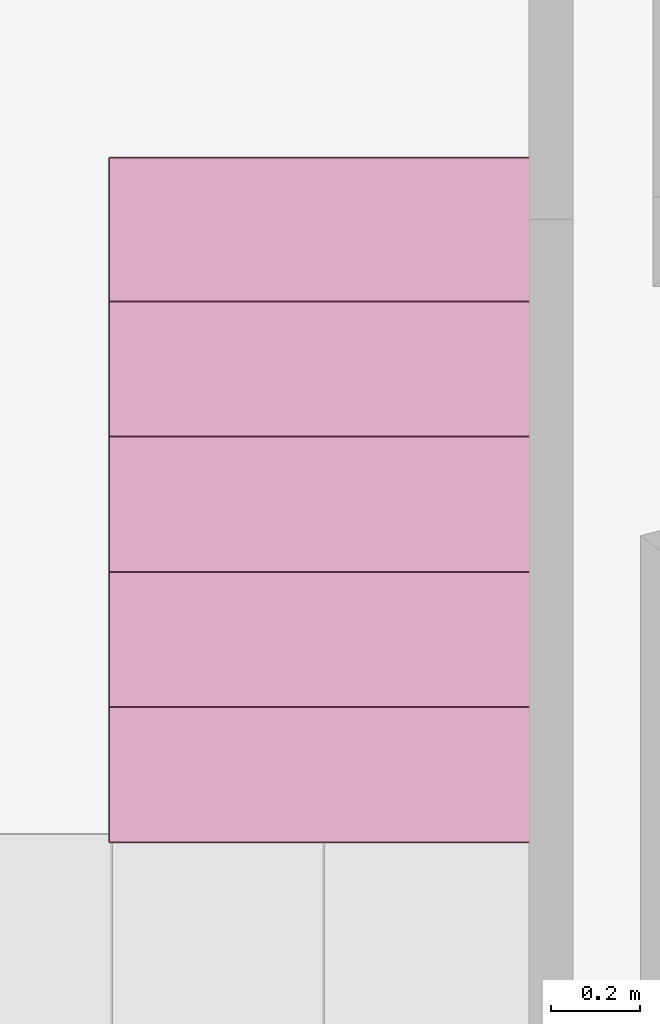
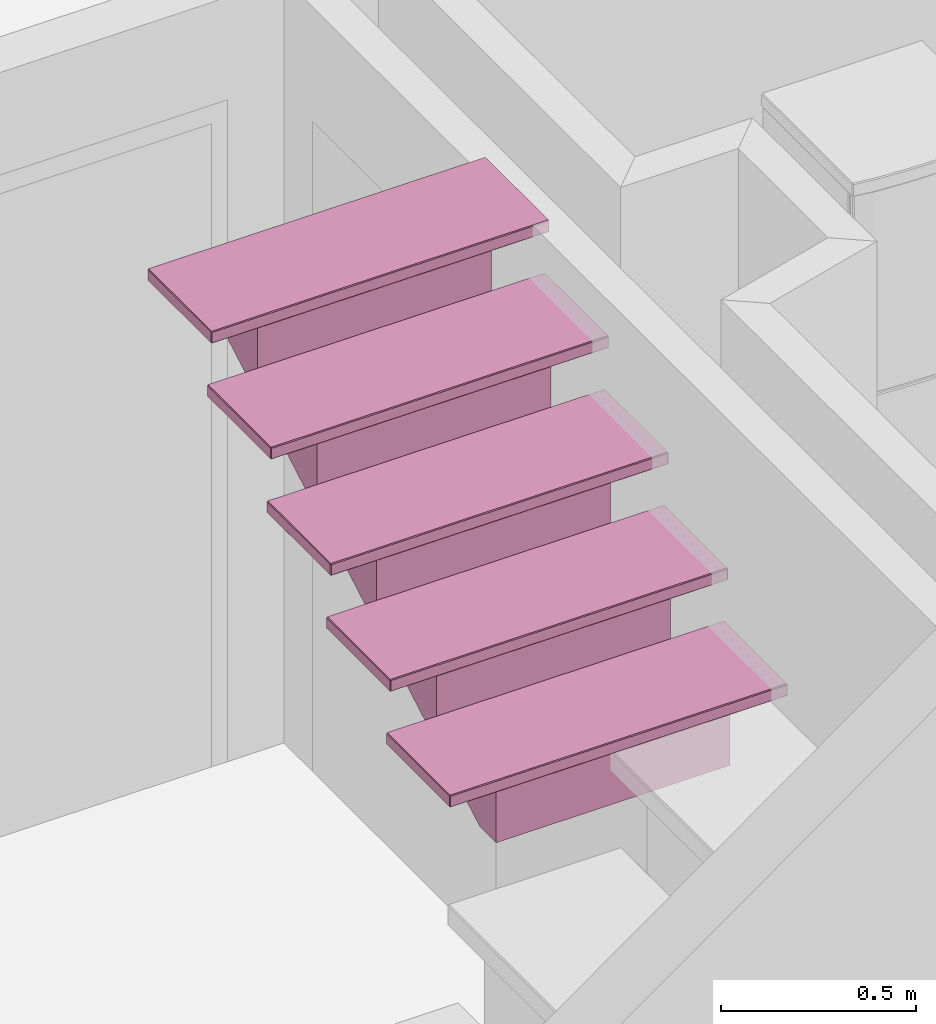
# One storey, part 4 of 9: 1 furnishing.
"""IFC2X3 building model written with IfcOpenShell, lengths in metres."""

from ifc_helpers import new_model, si_unit, frame, origin_with_axes, place, context, project, spatial, faceted_brep, type_object, element, save


model = new_model("IFC2X3")

# Units and contexts
model_context = context("Model", 3, precision=1e-05, world=origin_with_axes())
ifc_project = project(units=[si_unit("AREAUNIT", "SQUARE_METRE"), si_unit("LENGTHUNIT", "METRE")], contexts=[model_context])

# Site, building, storey, space
site_placement = place(None, origin_with_axes())
site = spatial("IfcSite", under=ifc_project, at=site_placement, Name="Site", CompositionType="ELEMENT")
building_placement = place(site_placement, origin_with_axes())
building = spatial("IfcBuilding", under=site, at=building_placement, Name="Building", CompositionType="ELEMENT")
storey_placement = place(building_placement, frame((0.0, 0.0, 0.0500004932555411), z_axis=(0.0, 0.0, 1.0), x_axis=(1.0, 0.0, 0.0)))
storey = spatial("IfcBuildingStorey", under=building, at=storey_placement, Name="Story 0", CompositionType="ELEMENT", Elevation=0.0499999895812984)
space_placement = place(storey_placement, frame((-2.12390536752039, -1.01893616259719, 0.0), z_axis=(0.0, 0.0, 1.0), x_axis=(1.0, 0.0, 0.0)))
space = spatial("IfcSpace", under=storey, at=space_placement, Name="005", CompositionType="ELEMENT", InteriorOrExteriorSpace="INTERNAL")

# Furnishing
furniture_type = type_object("IfcFurnitureType", Name="5df84158-10f1-4ef0-beb3-db7b0245d618")
furnishing_placement = place(space_placement, frame((-0.449350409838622, -1.71813582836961, 1.92690342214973), z_axis=(0.0, 0.0, 1.00000000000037), x_axis=(0.0, -1.00000000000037, 0.0)))
element("IfcFurnishingElement", 1, at=furnishing_placement, inside=space, type_object=furniture_type, Name="STAIRS", ObjectType="STAIRS", context=model_context, shape_type="Brep", body=[
    faceted_brep([(0.7738, 0.4976, -0.2504), (0.7738, -0.4976, -0.2504), (0.7738, 0.4976, -0.283), (0.7738, -0.4976, -0.283), (0.7738, 0.4976, -0.283), (0.7738, -0.4976, -0.2504), (0.7716, -0.4994, -0.2504), (0.4491, -0.4994, -0.2504), (0.7716, -0.4994, -0.283), (0.4491, -0.4994, -0.283), (0.7716, -0.4994, -0.283), (0.4491, -0.4994, -0.2504), (0.4469, -0.4976, -0.2504), (0.4469, 0.4976, -0.2504), (0.4469, -0.4976, -0.283), (0.4469, 0.4976, -0.283), (0.4469, -0.4976, -0.283), (0.4469, 0.4976, -0.2504), (0.4491, 0.4994, -0.2504), (0.7716, 0.4994, -0.2504), (0.4491, 0.4994, -0.283), (0.7716, 0.4994, -0.283), (0.4491, 0.4994, -0.283), (0.7716, 0.4994, -0.2504), (0.7716, -0.4976, -0.2855), (0.4491, -0.4976, -0.2855), (0.7716, 0.4976, -0.2855), (0.4491, 0.4976, -0.2855), (0.7716, 0.4976, -0.2855), (0.4491, -0.4976, -0.2855), (0.7716, -0.4976, -0.2479), (0.7716, 0.4976, -0.2479), (0.4491, -0.4976, -0.2479), (0.4491, 0.4976, -0.2479), (0.4491, -0.4976, -0.2479), (0.7716, 0.4976, -0.2479), (0.7716, 0.4994, -0.283), (0.7738, 0.4976, -0.283), (0.7716, 0.4976, -0.2855), (0.7716, -0.4994, -0.283), (0.7716, -0.4976, -0.2855), (0.7738, -0.4976, -0.283), (0.4469, -0.4976, -0.283), (0.4491, -0.4976, -0.2855), (0.4491, -0.4994, -0.283), (0.4469, 0.4976, -0.283), (0.4491, 0.4994, -0.283), (0.4491, 0.4976, -0.2855), (0.7716, 0.4976, -0.2479), (0.7738, 0.4976, -0.2504), (0.7716, 0.4994, -0.2504), (0.7716, -0.4976, -0.2479), (0.7716, -0.4994, -0.2504), (0.7738, -0.4976, -0.2504), (0.4491, -0.4976, -0.2479), (0.4469, -0.4976, -0.2504), (0.4491, -0.4994, -0.2504), (0.4491, 0.4976, -0.2479), (0.4491, 0.4994, -0.2504), (0.4469, 0.4976, -0.2504), (0.7716, 0.4976, -0.2855), (0.7738, 0.4976, -0.283), (0.7716, -0.4976, -0.2855), (0.7738, -0.4976, -0.283), (0.7716, -0.4976, -0.2855), (0.7738, 0.4976, -0.283), (0.7716, -0.4994, -0.283), (0.7738, -0.4976, -0.283), (0.7716, -0.4994, -0.2504), (0.7738, -0.4976, -0.2504), (0.7716, -0.4994, -0.2504), (0.7738, -0.4976, -0.283), (0.7716, -0.4976, -0.2479), (0.7738, -0.4976, -0.2504), (0.7716, 0.4976, -0.2479), (0.7738, 0.4976, -0.2504), (0.7716, 0.4976, -0.2479), (0.7738, -0.4976, -0.2504), (0.7716, 0.4994, -0.2504), (0.7738, 0.4976, -0.2504), (0.7716, 0.4994, -0.283), (0.7738, 0.4976, -0.283), (0.7716, 0.4994, -0.283), (0.7738, 0.4976, -0.2504), (0.7716, -0.4976, -0.2855), (0.7716, -0.4994, -0.283), (0.4491, -0.4976, -0.2855), (0.4491, -0.4994, -0.283), (0.4491, -0.4976, -0.2855), (0.7716, -0.4994, -0.283), (0.4469, -0.4976, -0.283), (0.4491, -0.4994, -0.283), (0.4469, -0.4976, -0.2504), (0.4491, -0.4994, -0.2504), (0.4469, -0.4976, -0.2504), (0.4491, -0.4994, -0.283), (0.4491, -0.4976, -0.2479), (0.4491, -0.4994, -0.2504), (0.7716, -0.4976, -0.2479), (0.7716, -0.4994, -0.2504), (0.7716, -0.4976, -0.2479), (0.4491, -0.4994, -0.2504), (0.4491, -0.4976, -0.2855), (0.4469, -0.4976, -0.283), (0.4491, 0.4976, -0.2855), (0.4469, 0.4976, -0.283), (0.4491, 0.4976, -0.2855), (0.4469, -0.4976, -0.283), (0.4491, 0.4994, -0.283), (0.4469, 0.4976, -0.283), (0.4491, 0.4994, -0.2504), (0.4469, 0.4976, -0.2504), (0.4491, 0.4994, -0.2504), (0.4469, 0.4976, -0.283), (0.4491, 0.4976, -0.2479), (0.4469, 0.4976, -0.2504), (0.4491, -0.4976, -0.2479), (0.4469, -0.4976, -0.2504), (0.4491, -0.4976, -0.2479), (0.4469, 0.4976, -0.2504), (0.4491, 0.4976, -0.2855), (0.4491, 0.4994, -0.283), (0.7716, 0.4976, -0.2855), (0.7716, 0.4994, -0.283), (0.7716, 0.4976, -0.2855), (0.4491, 0.4994, -0.283), (0.7716, 0.4976, -0.2479), (0.7716, 0.4994, -0.2504), (0.4491, 0.4976, -0.2479), (0.4491, 0.4994, -0.2504), (0.4491, 0.4976, -0.2479), (0.7716, 0.4994, -0.2504), (0.4679, 0.4976, -0.0743), (0.4679, -0.4976, -0.0743), (0.4679, 0.4976, -0.1069), (0.4679, -0.4976, -0.1069), (0.4679, 0.4976, -0.1069), (0.4679, -0.4976, -0.0743), (0.4657, -0.4994, -0.0743), (0.1431, -0.4994, -0.0743), (0.4657, -0.4994, -0.1069), (0.1431, -0.4994, -0.1069), (0.4657, -0.4994, -0.1069), (0.1431, -0.4994, -0.0743), (0.1409, -0.4976, -0.0743), (0.1409, 0.4976, -0.0743), (0.1409, -0.4976, -0.1069), (0.1409, 0.4976, -0.1069), (0.1409, -0.4976, -0.1069), (0.1409, 0.4976, -0.0743), (0.1431, 0.4994, -0.0743), (0.4657, 0.4994, -0.0743), (0.1431, 0.4994, -0.1069), (0.4657, 0.4994, -0.1069), (0.1431, 0.4994, -0.1069), (0.4657, 0.4994, -0.0743), (0.4657, -0.4976, -0.1094), (0.1431, -0.4976, -0.1094), (0.4657, 0.4976, -0.1094), (0.1431, 0.4976, -0.1094), (0.4657, 0.4976, -0.1094), (0.1431, -0.4976, -0.1094), (0.4657, -0.4976, -0.0718), (0.4657, 0.4976, -0.0718), (0.1431, -0.4976, -0.0718), (0.1431, 0.4976, -0.0718), (0.1431, -0.4976, -0.0718), (0.4657, 0.4976, -0.0718), (0.4657, 0.4994, -0.1069), (0.4679, 0.4976, -0.1069), (0.4657, 0.4976, -0.1094), (0.4657, -0.4994, -0.1069), (0.4657, -0.4976, -0.1094), (0.4679, -0.4976, -0.1069), (0.1409, -0.4976, -0.1069), (0.1431, -0.4976, -0.1094), (0.1431, -0.4994, -0.1069), (0.1409, 0.4976, -0.1069), (0.1431, 0.4994, -0.1069), (0.1431, 0.4976, -0.1094), (0.4657, 0.4976, -0.0718), (0.4679, 0.4976, -0.0743), (0.4657, 0.4994, -0.0743), (0.4657, -0.4976, -0.0718), (0.4657, -0.4994, -0.0743), (0.4679, -0.4976, -0.0743), (0.1431, -0.4976, -0.0718), (0.1409, -0.4976, -0.0743), (0.1431, -0.4994, -0.0743), (0.1431, 0.4976, -0.0718), (0.1431, 0.4994, -0.0743), (0.1409, 0.4976, -0.0743), (0.4657, 0.4976, -0.1094), (0.4679, 0.4976, -0.1069), (0.4657, -0.4976, -0.1094), (0.4679, -0.4976, -0.1069), (0.4657, -0.4976, -0.1094), (0.4679, 0.4976, -0.1069), (0.4657, -0.4994, -0.1069), (0.4679, -0.4976, -0.1069), (0.4657, -0.4994, -0.0743), (0.4679, -0.4976, -0.0743), (0.4657, -0.4994, -0.0743), (0.4679, -0.4976, -0.1069), (0.4657, -0.4976, -0.0718), (0.4679, -0.4976, -0.0743), (0.4657, 0.4976, -0.0718), (0.4679, 0.4976, -0.0743), (0.4657, 0.4976, -0.0718), (0.4679, -0.4976, -0.0743), (0.4657, 0.4994, -0.0743), (0.4679, 0.4976, -0.0743), (0.4657, 0.4994, -0.1069), (0.4679, 0.4976, -0.1069), (0.4657, 0.4994, -0.1069), (0.4679, 0.4976, -0.0743), (0.4657, -0.4976, -0.1094), (0.4657, -0.4994, -0.1069), (0.1431, -0.4976, -0.1094), (0.1431, -0.4994, -0.1069), (0.1431, -0.4976, -0.1094), (0.4657, -0.4994, -0.1069), (0.1409, -0.4976, -0.1069), (0.1431, -0.4994, -0.1069), (0.1409, -0.4976, -0.0743), (0.1431, -0.4994, -0.0743), (0.1409, -0.4976, -0.0743), (0.1431, -0.4994, -0.1069), (0.1431, -0.4976, -0.0718), (0.1431, -0.4994, -0.0743), (0.4657, -0.4976, -0.0718), (0.4657, -0.4994, -0.0743), (0.4657, -0.4976, -0.0718), (0.1431, -0.4994, -0.0743), (0.1431, -0.4976, -0.1094), (0.1409, -0.4976, -0.1069), (0.1431, 0.4976, -0.1094), (0.1409, 0.4976, -0.1069), (0.1431, 0.4976, -0.1094), (0.1409, -0.4976, -0.1069), (0.1431, 0.4994, -0.1069), (0.1409, 0.4976, -0.1069), (0.1431, 0.4994, -0.0743), (0.1409, 0.4976, -0.0743), (0.1431, 0.4994, -0.0743), (0.1409, 0.4976, -0.1069), (0.1431, 0.4976, -0.0718), (0.1409, 0.4976, -0.0743), (0.1431, -0.4976, -0.0718), (0.1409, -0.4976, -0.0743), (0.1431, -0.4976, -0.0718), (0.1409, 0.4976, -0.0743), (0.1431, 0.4976, -0.1094), (0.1431, 0.4994, -0.1069), (0.4657, 0.4976, -0.1094), (0.4657, 0.4994, -0.1069), (0.4657, 0.4976, -0.1094), (0.1431, 0.4994, -0.1069), (0.4657, 0.4976, -0.0718), (0.4657, 0.4994, -0.0743), (0.1431, 0.4976, -0.0718), (0.1431, 0.4994, -0.0743), (0.1431, 0.4976, -0.0718), (0.4657, 0.4994, -0.0743), (0.1634, 0.4976, 0.103), (0.1634, -0.4976, 0.103), (0.1634, 0.4976, 0.0704), (0.1634, -0.4976, 0.0704), (0.1634, 0.4976, 0.0704), (0.1634, -0.4976, 0.103), (0.1612, -0.4994, 0.103), (-0.1614, -0.4994, 0.103), (0.1612, -0.4994, 0.0704), (-0.1614, -0.4994, 0.0704), (0.1612, -0.4994, 0.0704), (-0.1614, -0.4994, 0.103), (-0.1635, -0.4976, 0.103), (-0.1635, 0.4976, 0.103), (-0.1635, -0.4976, 0.0704), (-0.1635, 0.4976, 0.0704), (-0.1635, -0.4976, 0.0704), (-0.1635, 0.4976, 0.103), (-0.1614, 0.4994, 0.103), (0.1612, 0.4994, 0.103), (-0.1614, 0.4994, 0.0704), (0.1612, 0.4994, 0.0704), (-0.1614, 0.4994, 0.0704), (0.1612, 0.4994, 0.103), (0.1612, -0.4976, 0.0678), (-0.1614, -0.4976, 0.0678), (0.1612, 0.4976, 0.0678), (-0.1614, 0.4976, 0.0678), (0.1612, 0.4976, 0.0678), (-0.1614, -0.4976, 0.0678), (0.1612, -0.4976, 0.1055), (0.1612, 0.4976, 0.1055), (-0.1614, -0.4976, 0.1055), (-0.1614, 0.4976, 0.1055), (-0.1614, -0.4976, 0.1055), (0.1612, 0.4976, 0.1055), (0.1612, 0.4994, 0.0704), (0.1634, 0.4976, 0.0704), (0.1612, 0.4976, 0.0678), (0.1612, -0.4994, 0.0704), (0.1612, -0.4976, 0.0678), (0.1634, -0.4976, 0.0704), (-0.1635, -0.4976, 0.0704), (-0.1614, -0.4976, 0.0678), (-0.1614, -0.4994, 0.0704), (-0.1635, 0.4976, 0.0704), (-0.1614, 0.4994, 0.0704), (-0.1614, 0.4976, 0.0678), (0.1612, 0.4976, 0.1055), (0.1634, 0.4976, 0.103), (0.1612, 0.4994, 0.103), (0.1612, -0.4976, 0.1055), (0.1612, -0.4994, 0.103), (0.1634, -0.4976, 0.103), (-0.1614, -0.4976, 0.1055), (-0.1635, -0.4976, 0.103), (-0.1614, -0.4994, 0.103), (-0.1614, 0.4976, 0.1055), (-0.1614, 0.4994, 0.103), (-0.1635, 0.4976, 0.103), (0.1612, 0.4976, 0.0678), (0.1634, 0.4976, 0.0704), (0.1612, -0.4976, 0.0678), (0.1634, -0.4976, 0.0704), (0.1612, -0.4976, 0.0678), (0.1634, 0.4976, 0.0704), (0.1612, -0.4994, 0.0704), (0.1634, -0.4976, 0.0704), (0.1612, -0.4994, 0.103), (0.1634, -0.4976, 0.103), (0.1612, -0.4994, 0.103), (0.1634, -0.4976, 0.0704), (0.1612, -0.4976, 0.1055), (0.1634, -0.4976, 0.103), (0.1612, 0.4976, 0.1055), (0.1634, 0.4976, 0.103), (0.1612, 0.4976, 0.1055), (0.1634, -0.4976, 0.103), (0.1612, 0.4994, 0.103), (0.1634, 0.4976, 0.103), (0.1612, 0.4994, 0.0704), (0.1634, 0.4976, 0.0704), (0.1612, 0.4994, 0.0704), (0.1634, 0.4976, 0.103), (0.1612, -0.4976, 0.0678), (0.1612, -0.4994, 0.0704), (-0.1614, -0.4976, 0.0678), (-0.1614, -0.4994, 0.0704), (-0.1614, -0.4976, 0.0678), (0.1612, -0.4994, 0.0704), (-0.1635, -0.4976, 0.0704), (-0.1614, -0.4994, 0.0704), (-0.1635, -0.4976, 0.103), (-0.1614, -0.4994, 0.103), (-0.1635, -0.4976, 0.103), (-0.1614, -0.4994, 0.0704), (-0.1614, -0.4976, 0.1055), (-0.1614, -0.4994, 0.103), (0.1612, -0.4976, 0.1055), (0.1612, -0.4994, 0.103), (0.1612, -0.4976, 0.1055), (-0.1614, -0.4994, 0.103), (-0.1614, -0.4976, 0.0678), (-0.1635, -0.4976, 0.0704), (-0.1614, 0.4976, 0.0678), (-0.1635, 0.4976, 0.0704), (-0.1614, 0.4976, 0.0678), (-0.1635, -0.4976, 0.0704), (-0.1614, 0.4994, 0.0704), (-0.1635, 0.4976, 0.0704), (-0.1614, 0.4994, 0.103), (-0.1635, 0.4976, 0.103), (-0.1614, 0.4994, 0.103), (-0.1635, 0.4976, 0.0704), (-0.1614, 0.4976, 0.1055), (-0.1635, 0.4976, 0.103), (-0.1614, -0.4976, 0.1055), (-0.1635, -0.4976, 0.103), (-0.1614, -0.4976, 0.1055), (-0.1635, 0.4976, 0.103), (-0.1614, 0.4976, 0.0678), (-0.1614, 0.4994, 0.0704), (0.1612, 0.4976, 0.0678), (0.1612, 0.4994, 0.0704), (0.1612, 0.4976, 0.0678), (-0.1614, 0.4994, 0.0704), (0.1612, 0.4976, 0.1055), (0.1612, 0.4994, 0.103), (-0.1614, 0.4976, 0.1055), (-0.1614, 0.4994, 0.103), (-0.1614, 0.4976, 0.1055), (0.1612, 0.4994, 0.103), (-0.1423, 0.4976, 0.2808), (-0.1423, -0.4976, 0.2808), (-0.1423, 0.4976, 0.2482), (-0.1423, -0.4976, 0.2482), (-0.1423, 0.4976, 0.2482), (-0.1423, -0.4976, 0.2808), (-0.1445, -0.4994, 0.2808), (-0.4671, -0.4994, 0.2808), (-0.1445, -0.4994, 0.2482), (-0.4671, -0.4994, 0.2482), (-0.1445, -0.4994, 0.2482), (-0.4671, -0.4994, 0.2808), (-0.4692, -0.4976, 0.2808), (-0.4692, 0.4976, 0.2808), (-0.4692, -0.4976, 0.2482), (-0.4692, 0.4976, 0.2482), (-0.4692, -0.4976, 0.2482), (-0.4692, 0.4976, 0.2808), (-0.4671, 0.4994, 0.2808), (-0.1445, 0.4994, 0.2808), (-0.4671, 0.4994, 0.2482), (-0.1445, 0.4994, 0.2482), (-0.4671, 0.4994, 0.2482), (-0.1445, 0.4994, 0.2808), (-0.1445, -0.4976, 0.2457), (-0.4671, -0.4976, 0.2457), (-0.1445, 0.4976, 0.2457), (-0.4671, 0.4976, 0.2457), (-0.1445, 0.4976, 0.2457), (-0.4671, -0.4976, 0.2457), (-0.1445, -0.4976, 0.2833), (-0.1445, 0.4976, 0.2833), (-0.4671, -0.4976, 0.2833), (-0.4671, 0.4976, 0.2833), (-0.4671, -0.4976, 0.2833), (-0.1445, 0.4976, 0.2833), (-0.1445, 0.4994, 0.2482), (-0.1423, 0.4976, 0.2482), (-0.1445, 0.4976, 0.2457), (-0.1445, -0.4994, 0.2482), (-0.1445, -0.4976, 0.2457), (-0.1423, -0.4976, 0.2482), (-0.4692, -0.4976, 0.2482), (-0.4671, -0.4976, 0.2457), (-0.4671, -0.4994, 0.2482), (-0.4692, 0.4976, 0.2482), (-0.4671, 0.4994, 0.2482), (-0.4671, 0.4976, 0.2457), (-0.1445, 0.4976, 0.2833), (-0.1423, 0.4976, 0.2808), (-0.1445, 0.4994, 0.2808), (-0.1445, -0.4976, 0.2833), (-0.1445, -0.4994, 0.2808), (-0.1423, -0.4976, 0.2808), (-0.4671, -0.4976, 0.2833), (-0.4692, -0.4976, 0.2808), (-0.4671, -0.4994, 0.2808), (-0.4671, 0.4976, 0.2833), (-0.4671, 0.4994, 0.2808), (-0.4692, 0.4976, 0.2808), (-0.1445, 0.4976, 0.2457), (-0.1423, 0.4976, 0.2482), (-0.1445, -0.4976, 0.2457), (-0.1423, -0.4976, 0.2482), (-0.1445, -0.4976, 0.2457), (-0.1423, 0.4976, 0.2482), (-0.1445, -0.4994, 0.2482), (-0.1423, -0.4976, 0.2482), (-0.1445, -0.4994, 0.2808), (-0.1423, -0.4976, 0.2808), (-0.1445, -0.4994, 0.2808), (-0.1423, -0.4976, 0.2482), (-0.1445, -0.4976, 0.2833), (-0.1423, -0.4976, 0.2808), (-0.1445, 0.4976, 0.2833), (-0.1423, 0.4976, 0.2808), (-0.1445, 0.4976, 0.2833), (-0.1423, -0.4976, 0.2808), (-0.1445, 0.4994, 0.2808), (-0.1423, 0.4976, 0.2808), (-0.1445, 0.4994, 0.2482), (-0.1423, 0.4976, 0.2482), (-0.1445, 0.4994, 0.2482), (-0.1423, 0.4976, 0.2808), (-0.1445, -0.4976, 0.2457), (-0.1445, -0.4994, 0.2482), (-0.4671, -0.4976, 0.2457), (-0.4671, -0.4994, 0.2482), (-0.4671, -0.4976, 0.2457), (-0.1445, -0.4994, 0.2482), (-0.4692, -0.4976, 0.2482), (-0.4671, -0.4994, 0.2482), (-0.4692, -0.4976, 0.2808), (-0.4671, -0.4994, 0.2808), (-0.4692, -0.4976, 0.2808), (-0.4671, -0.4994, 0.2482), (-0.4671, -0.4976, 0.2833), (-0.4671, -0.4994, 0.2808), (-0.1445, -0.4976, 0.2833), (-0.1445, -0.4994, 0.2808), (-0.1445, -0.4976, 0.2833), (-0.4671, -0.4994, 0.2808), (-0.4671, -0.4976, 0.2457), (-0.4692, -0.4976, 0.2482), (-0.4671, 0.4976, 0.2457), (-0.4692, 0.4976, 0.2482), (-0.4671, 0.4976, 0.2457), (-0.4692, -0.4976, 0.2482), (-0.4671, 0.4994, 0.2482), (-0.4692, 0.4976, 0.2482), (-0.4671, 0.4994, 0.2808), (-0.4692, 0.4976, 0.2808), (-0.4671, 0.4994, 0.2808), (-0.4692, 0.4976, 0.2482), (-0.4671, 0.4976, 0.2833), (-0.4692, 0.4976, 0.2808), (-0.4671, -0.4976, 0.2833), (-0.4692, -0.4976, 0.2808), (-0.4671, -0.4976, 0.2833), (-0.4692, 0.4976, 0.2808), (-0.4671, 0.4976, 0.2457), (-0.4671, 0.4994, 0.2482), (-0.1445, 0.4976, 0.2457), (-0.1445, 0.4994, 0.2482), (-0.1445, 0.4976, 0.2457), (-0.4671, 0.4994, 0.2482), (-0.1445, 0.4976, 0.2833), (-0.1445, 0.4994, 0.2808), (-0.4671, 0.4976, 0.2833), (-0.4671, 0.4994, 0.2808), (-0.4671, 0.4976, 0.2833), (-0.1445, 0.4994, 0.2808), (-0.4469, 0.4976, 0.4581), (-0.4469, -0.4976, 0.4581), (-0.4469, 0.4976, 0.4255), (-0.4469, -0.4976, 0.4255), (-0.4469, 0.4976, 0.4255), (-0.4469, -0.4976, 0.4581), (-0.4491, -0.4994, 0.4581), (-0.7716, -0.4994, 0.4581), (-0.4491, -0.4994, 0.4255), (-0.7716, -0.4994, 0.4255), (-0.4491, -0.4994, 0.4255), (-0.7716, -0.4994, 0.4581), (-0.7738, -0.4976, 0.4581), (-0.7738, 0.4976, 0.4581), (-0.7738, -0.4976, 0.4255), (-0.7738, 0.4976, 0.4255), (-0.7738, -0.4976, 0.4255), (-0.7738, 0.4976, 0.4581), (-0.7716, 0.4994, 0.4581), (-0.4491, 0.4994, 0.4581), (-0.7716, 0.4994, 0.4255), (-0.4491, 0.4994, 0.4255), (-0.7716, 0.4994, 0.4255), (-0.4491, 0.4994, 0.4581), (-0.4491, -0.4976, 0.423), (-0.7716, -0.4976, 0.423), (-0.4491, 0.4976, 0.423), (-0.7716, 0.4976, 0.423), (-0.4491, 0.4976, 0.423), (-0.7716, -0.4976, 0.423), (-0.4491, -0.4976, 0.4606), (-0.4491, 0.4976, 0.4606), (-0.7716, -0.4976, 0.4606), (-0.7716, 0.4976, 0.4606), (-0.7716, -0.4976, 0.4606), (-0.4491, 0.4976, 0.4606), (-0.4491, 0.4994, 0.4255), (-0.4469, 0.4976, 0.4255), (-0.4491, 0.4976, 0.423), (-0.4491, -0.4994, 0.4255), (-0.4491, -0.4976, 0.423), (-0.4469, -0.4976, 0.4255), (-0.7738, -0.4976, 0.4255), (-0.7716, -0.4976, 0.423), (-0.7716, -0.4994, 0.4255), (-0.7738, 0.4976, 0.4255), (-0.7716, 0.4994, 0.4255), (-0.7716, 0.4976, 0.423), (-0.4491, 0.4976, 0.4606), (-0.4469, 0.4976, 0.4581), (-0.4491, 0.4994, 0.4581), (-0.4491, -0.4976, 0.4606), (-0.4491, -0.4994, 0.4581), (-0.4469, -0.4976, 0.4581), (-0.7716, -0.4976, 0.4606), (-0.7738, -0.4976, 0.4581), (-0.7716, -0.4994, 0.4581), (-0.7716, 0.4976, 0.4606), (-0.7716, 0.4994, 0.4581), (-0.7738, 0.4976, 0.4581), (-0.4491, 0.4976, 0.423), (-0.4469, 0.4976, 0.4255), (-0.4491, -0.4976, 0.423), (-0.4469, -0.4976, 0.4255), (-0.4491, -0.4976, 0.423), (-0.4469, 0.4976, 0.4255), (-0.4491, -0.4994, 0.4255), (-0.4469, -0.4976, 0.4255), (-0.4491, -0.4994, 0.4581), (-0.4469, -0.4976, 0.4581), (-0.4491, -0.4994, 0.4581), (-0.4469, -0.4976, 0.4255), (-0.4491, -0.4976, 0.4606), (-0.4469, -0.4976, 0.4581), (-0.4491, 0.4976, 0.4606), (-0.4469, 0.4976, 0.4581), (-0.4491, 0.4976, 0.4606), (-0.4469, -0.4976, 0.4581), (-0.4491, 0.4994, 0.4581), (-0.4469, 0.4976, 0.4581), (-0.4491, 0.4994, 0.4255), (-0.4469, 0.4976, 0.4255), (-0.4491, 0.4994, 0.4255), (-0.4469, 0.4976, 0.4581), (-0.4491, -0.4976, 0.423), (-0.4491, -0.4994, 0.4255), (-0.7716, -0.4976, 0.423), (-0.7716, -0.4994, 0.4255), (-0.7716, -0.4976, 0.423), (-0.4491, -0.4994, 0.4255), (-0.7738, -0.4976, 0.4255), (-0.7716, -0.4994, 0.4255), (-0.7738, -0.4976, 0.4581), (-0.7716, -0.4994, 0.4581), (-0.7738, -0.4976, 0.4581), (-0.7716, -0.4994, 0.4255), (-0.7716, -0.4976, 0.4606), (-0.7716, -0.4994, 0.4581), (-0.4491, -0.4976, 0.4606), (-0.4491, -0.4994, 0.4581), (-0.4491, -0.4976, 0.4606), (-0.7716, -0.4994, 0.4581), (-0.7716, -0.4976, 0.423), (-0.7738, -0.4976, 0.4255), (-0.7716, 0.4976, 0.423), (-0.7738, 0.4976, 0.4255), (-0.7716, 0.4976, 0.423), (-0.7738, -0.4976, 0.4255), (-0.7716, 0.4994, 0.4255), (-0.7738, 0.4976, 0.4255), (-0.7716, 0.4994, 0.4581), (-0.7738, 0.4976, 0.4581), (-0.7716, 0.4994, 0.4581), (-0.7738, 0.4976, 0.4255), (-0.7716, 0.4976, 0.4606), (-0.7738, 0.4976, 0.4581), (-0.7716, -0.4976, 0.4606), (-0.7738, -0.4976, 0.4581), (-0.7716, -0.4976, 0.4606), (-0.7738, 0.4976, 0.4581), (-0.7716, 0.4976, 0.423), (-0.7716, 0.4994, 0.4255), (-0.4491, 0.4976, 0.423), (-0.4491, 0.4994, 0.4255), (-0.4491, 0.4976, 0.423), (-0.7716, 0.4994, 0.4255), (-0.4491, 0.4976, 0.4606), (-0.4491, 0.4994, 0.4581), (-0.7716, 0.4976, 0.4606), (-0.7716, 0.4994, 0.4581), (-0.7716, 0.4976, 0.4606), (-0.4491, 0.4994, 0.4581), (0.7513, 0.2977, -0.2853), (0.7513, 0.2977, -0.4606), (0.7513, 0.3409, -0.2853), (0.7513, 0.3409, -0.4606), (0.7513, 0.3409, -0.2853), (0.7513, 0.2977, -0.4606), (0.4461, 0.2977, -0.2853), (0.7513, 0.2977, -0.2853), (0.4461, 0.3409, -0.2853), (0.7513, 0.3409, -0.2853), (0.4461, 0.3409, -0.2853), (0.7513, 0.2977, -0.2853), (0.4461, 0.2977, -0.1085), (0.4461, 0.2977, -0.2853), (0.4461, 0.3409, -0.1085), (0.4461, 0.3409, -0.2853), (0.4461, 0.3409, -0.1085), (0.4461, 0.2977, -0.2853), (0.141, 0.2977, -0.1085), (0.4461, 0.2977, -0.1085), (0.141, 0.3409, -0.1085), (0.4461, 0.3409, -0.1085), (0.141, 0.3409, -0.1085), (0.4461, 0.2977, -0.1085), (0.141, 0.2977, 0.0683), (0.141, 0.2977, -0.1085), (0.141, 0.3409, 0.0683), (0.141, 0.3409, -0.1085), (0.141, 0.3409, 0.0683), (0.141, 0.2977, -0.1085), (-0.1642, 0.2977, 0.0683), (0.141, 0.2977, 0.0683), (-0.1642, 0.3409, 0.0683), (0.141, 0.3409, 0.0683), (-0.1642, 0.3409, 0.0683), (0.141, 0.2977, 0.0683), (-0.1642, 0.2977, 0.2451), (-0.1642, 0.2977, 0.0683), (-0.1642, 0.3409, 0.2451), (-0.1642, 0.3409, 0.0683), (-0.1642, 0.3409, 0.2451), (-0.1642, 0.2977, 0.0683), (-0.4693, 0.2977, 0.2451), (-0.1642, 0.2977, 0.2451), (-0.4693, 0.3409, 0.2451), (-0.1642, 0.3409, 0.2451), (-0.4693, 0.3409, 0.2451), (-0.1642, 0.2977, 0.2451), (-0.4693, 0.2977, 0.4219), (-0.4693, 0.2977, 0.2451), (-0.4693, 0.3409, 0.4219), (-0.4693, 0.3409, 0.2451), (-0.4693, 0.3409, 0.4219), (-0.4693, 0.2977, 0.2451), (-0.7636, 0.2977, 0.4219), (-0.4693, 0.2977, 0.4219), (-0.7636, 0.3409, 0.4219), (-0.4693, 0.3409, 0.4219), (-0.7636, 0.3409, 0.4219), (-0.4693, 0.2977, 0.4219), (0.7513, -0.3505, -0.2853), (0.7513, -0.3505, -0.4606), (0.7513, -0.3073, -0.2853), (0.7513, -0.3073, -0.4606), (0.7513, -0.3073, -0.2853), (0.7513, -0.3505, -0.4606), (0.4461, -0.3505, -0.2853), (0.7513, -0.3505, -0.2853), (0.4461, -0.3073, -0.2853), (0.7513, -0.3073, -0.2853), (0.4461, -0.3073, -0.2853), (0.7513, -0.3505, -0.2853), (0.4461, -0.3505, -0.1085), (0.4461, -0.3505, -0.2853), (0.4461, -0.3073, -0.1085), (0.4461, -0.3073, -0.2853), (0.4461, -0.3073, -0.1085), (0.4461, -0.3505, -0.2853), (0.141, -0.3505, -0.1085), (0.4461, -0.3505, -0.1085), (0.141, -0.3073, -0.1085), (0.4461, -0.3073, -0.1085), (0.141, -0.3073, -0.1085), (0.4461, -0.3505, -0.1085), (0.141, -0.3505, 0.0683), (0.141, -0.3505, -0.1085), (0.141, -0.3073, 0.0683), (0.141, -0.3073, -0.1085), (0.141, -0.3073, 0.0683), (0.141, -0.3505, -0.1085), (-0.1642, -0.3505, 0.0683), (0.141, -0.3505, 0.0683), (-0.1642, -0.3073, 0.0683), (0.141, -0.3073, 0.0683), (-0.1642, -0.3073, 0.0683), (0.141, -0.3505, 0.0683), (-0.1642, -0.3505, 0.2451), (-0.1642, -0.3505, 0.0683), (-0.1642, -0.3073, 0.2451), (-0.1642, -0.3073, 0.0683), (-0.1642, -0.3073, 0.2451), (-0.1642, -0.3505, 0.0683), (-0.4693, -0.3505, 0.2451), (-0.1642, -0.3505, 0.2451), (-0.4693, -0.3073, 0.2451), (-0.1642, -0.3073, 0.2451), (-0.4693, -0.3073, 0.2451), (-0.1642, -0.3505, 0.2451), (-0.4693, -0.3505, 0.4219), (-0.4693, -0.3505, 0.2451), (-0.4693, -0.3073, 0.4219), (-0.4693, -0.3073, 0.2451), (-0.4693, -0.3073, 0.4219), (-0.4693, -0.3505, 0.2451), (-0.7636, -0.3505, 0.4219), (-0.4693, -0.3505, 0.4219), (-0.7636, -0.3073, 0.4219), (-0.4693, -0.3073, 0.4219), (-0.7636, -0.3073, 0.4219), (-0.4693, -0.3505, 0.4219), (0.6693, 0.3409, -0.4606), (0.6693, 0.2977, -0.4606), (-0.7636, 0.3409, 0.3628), (-0.7636, 0.2977, 0.3628), (-0.7636, 0.3409, 0.3628), (0.6693, 0.2977, -0.4606), (0.6693, -0.3073, -0.4606), (0.6693, -0.3505, -0.4606), (-0.7636, -0.3073, 0.3628), (-0.7636, -0.3505, 0.3628), (-0.7636, -0.3073, 0.3628), (0.6693, -0.3505, -0.4606), (0.6693, 0.3409, -0.4606), (0.7513, 0.3409, -0.4606), (0.6693, 0.2977, -0.4606), (0.7513, 0.2977, -0.4606), (0.6693, 0.2977, -0.4606), (0.7513, 0.3409, -0.4606), (-0.7636, 0.3409, 0.3628), (-0.7636, 0.2977, 0.3628), (-0.7636, 0.3409, 0.4219), (-0.7636, 0.2977, 0.4219), (-0.7636, 0.3409, 0.4219), (-0.7636, 0.2977, 0.3628), (0.6693, -0.3505, -0.4606), (0.6693, -0.3073, -0.4606), (0.7513, -0.3505, -0.4606), (0.7513, -0.3073, -0.4606), (0.7513, -0.3505, -0.4606), (0.6693, -0.3073, -0.4606), (-0.7636, -0.3073, 0.3628), (-0.7636, -0.3505, 0.3628), (-0.7636, -0.3073, 0.4219), (-0.7636, -0.3505, 0.4219), (-0.7636, -0.3073, 0.4219), (-0.7636, -0.3505, 0.3628), (-0.4693, 0.2977, 0.4219), (-0.7636, 0.2977, 0.4219), (-0.4693, -0.3073, 0.4219), (-0.7636, -0.3073, 0.4219), (-0.4693, -0.3073, 0.4219), (-0.7636, 0.2977, 0.4219), (-0.4693, 0.2977, 0.2451), (-0.4693, 0.2977, 0.4219), (-0.4693, -0.3073, 0.2451), (-0.4693, -0.3073, 0.4219), (-0.4693, -0.3073, 0.2451), (-0.4693, 0.2977, 0.4219), (-0.1642, 0.2977, 0.2451), (-0.4693, 0.2977, 0.2451), (-0.1642, -0.3073, 0.2451), (-0.4693, -0.3073, 0.2451), (-0.1642, -0.3073, 0.2451), (-0.4693, 0.2977, 0.2451), (-0.1642, 0.2977, 0.0683), (-0.1642, 0.2977, 0.2451), (-0.1642, -0.3073, 0.0683), (-0.1642, -0.3073, 0.2451), (-0.1642, -0.3073, 0.0683), (-0.1642, 0.2977, 0.2451), (0.141, 0.2977, 0.0683), (-0.1642, 0.2977, 0.0683), (0.141, -0.3073, 0.0683), (-0.1642, -0.3073, 0.0683), (0.141, -0.3073, 0.0683), (-0.1642, 0.2977, 0.0683), (0.141, 0.2977, -0.1085), (0.141, 0.2977, 0.0683), (0.141, -0.3073, -0.1085), (0.141, -0.3073, 0.0683), (0.141, -0.3073, -0.1085), (0.141, 0.2977, 0.0683), (0.4461, 0.2977, -0.1085), (0.141, 0.2977, -0.1085), (0.4461, -0.3073, -0.1085), (0.141, -0.3073, -0.1085), (0.4461, -0.3073, -0.1085), (0.141, 0.2977, -0.1085), (0.4461, 0.2977, -0.2853), (0.4461, 0.2977, -0.1085), (0.4461, -0.3073, -0.2853), (0.4461, -0.3073, -0.1085), (0.4461, -0.3073, -0.2853), (0.4461, 0.2977, -0.1085), (0.7513, 0.2977, -0.2853), (0.4461, 0.2977, -0.2853), (0.7513, -0.3073, -0.2853), (0.4461, -0.3073, -0.2853), (0.7513, -0.3073, -0.2853), (0.4461, 0.2977, -0.2853), (0.7513, 0.2977, -0.4606), (0.7513, 0.2977, -0.2853), (0.7513, -0.3073, -0.4606), (0.7513, -0.3073, -0.2853), (0.7513, -0.3073, -0.4606), (0.7513, 0.2977, -0.2853), (0.6693, -0.3073, -0.4606), (0.6693, 0.2977, -0.4606), (0.7513, -0.3073, -0.4606), (0.7513, 0.2977, -0.4606), (0.7513, -0.3073, -0.4606), (0.6693, 0.2977, -0.4606), (-0.7636, 0.2977, 0.3628), (0.6693, 0.2977, -0.4606), (-0.7636, -0.3073, 0.3628), (0.6693, -0.3073, -0.4606), (-0.7636, -0.3073, 0.3628), (0.6693, 0.2977, -0.4606), (-0.7636, -0.3505, 0.4219), (-0.7636, -0.3505, 0.3628), (-0.4693, -0.3505, 0.4219), (-0.4693, -0.3505, 0.4219), (-0.7636, -0.3505, 0.3628), (-0.4693, -0.3505, 0.2451), (-0.1642, -0.3505, 0.2451), (-0.4693, -0.3505, 0.2451), (-0.1642, -0.3505, 0.0683), (-0.4693, -0.3505, 0.2451), (-0.7636, -0.3505, 0.3628), (-0.1642, -0.3505, 0.0683), (0.141, -0.3505, 0.0683), (-0.1642, -0.3505, 0.0683), (0.141, -0.3505, -0.1085), (0.4461, -0.3505, -0.1085), (0.141, -0.3505, -0.1085), (0.4461, -0.3505, -0.2853), (0.141, -0.3505, -0.1085), (-0.1642, -0.3505, 0.0683), (0.4461, -0.3505, -0.2853), (-0.1642, -0.3505, 0.0683), (-0.7636, -0.3505, 0.3628), (0.4461, -0.3505, -0.2853), (0.7513, -0.3505, -0.2853), (0.4461, -0.3505, -0.2853), (0.7513, -0.3505, -0.4606), (0.4461, -0.3505, -0.2853), (-0.7636, -0.3505, 0.3628), (0.7513, -0.3505, -0.4606), (0.7513, -0.3505, -0.4606), (-0.7636, -0.3505, 0.3628), (0.6693, -0.3505, -0.4606), (0.7513, 0.3409, -0.4606), (0.6693, 0.3409, -0.4606), (0.7513, 0.3409, -0.2853), (0.7513, 0.3409, -0.2853), (0.6693, 0.3409, -0.4606), (0.4461, 0.3409, -0.2853), (0.4461, 0.3409, -0.1085), (0.4461, 0.3409, -0.2853), (0.141, 0.3409, -0.1085), (0.4461, 0.3409, -0.2853), (0.6693, 0.3409, -0.4606), (0.141, 0.3409, -0.1085), (0.141, 0.3409, 0.0683), (0.141, 0.3409, -0.1085), (-0.1642, 0.3409, 0.0683), (0.141, 0.3409, -0.1085), (0.6693, 0.3409, -0.4606), (-0.1642, 0.3409, 0.0683), (-0.1642, 0.3409, 0.2451), (-0.1642, 0.3409, 0.0683), (-0.4693, 0.3409, 0.2451), (-0.1642, 0.3409, 0.0683), (0.6693, 0.3409, -0.4606), (-0.4693, 0.3409, 0.2451), (-0.4693, 0.3409, 0.4219), (-0.4693, 0.3409, 0.2451), (-0.7636, 0.3409, 0.4219), (-0.4693, 0.3409, 0.2451), (0.6693, 0.3409, -0.4606), (-0.7636, 0.3409, 0.4219), (-0.7636, 0.3409, 0.4219), (0.6693, 0.3409, -0.4606), (-0.7636, 0.3409, 0.3628), (-0.7636, -0.3073, 0.4219), (-0.7636, 0.2977, 0.4219), (-0.7636, -0.3073, 0.3628), (-0.7636, 0.2977, 0.3628), (-0.7636, -0.3073, 0.3628), (-0.7636, 0.2977, 0.4219)], [[[0, 1, 2]], [[3, 4, 5]], [[6, 7, 8]], [[9, 10, 11]], [[12, 13, 14]], [[15, 16, 17]], [[18, 19, 20]], [[21, 22, 23]], [[24, 25, 26]], [[27, 28, 29]], [[30, 31, 32]], [[33, 34, 35]], [[36, 37, 38]], [[39, 40, 41]], [[42, 43, 44]], [[45, 46, 47]], [[48, 49, 50]], [[51, 52, 53]], [[54, 55, 56]], [[57, 58, 59]], [[60, 61, 62]], [[63, 64, 65]], [[66, 67, 68]], [[69, 70, 71]], [[72, 73, 74]], [[75, 76, 77]], [[78, 79, 80]], [[81, 82, 83]], [[84, 85, 86]], [[87, 88, 89]], [[90, 91, 92]], [[93, 94, 95]], [[96, 97, 98]], [[99, 100, 101]], [[102, 103, 104]], [[105, 106, 107]], [[108, 109, 110]], [[111, 112, 113]], [[114, 115, 116]], [[117, 118, 119]], [[120, 121, 122]], [[123, 124, 125]], [[126, 127, 128]], [[129, 130, 131]], [[132, 133, 134]], [[135, 136, 137]], [[138, 139, 140]], [[141, 142, 143]], [[144, 145, 146]], [[147, 148, 149]], [[150, 151, 152]], [[153, 154, 155]], [[156, 157, 158]], [[159, 160, 161]], [[162, 163, 164]], [[165, 166, 167]], [[168, 169, 170]], [[171, 172, 173]], [[174, 175, 176]], [[177, 178, 179]], [[180, 181, 182]], [[183, 184, 185]], [[186, 187, 188]], [[189, 190, 191]], [[192, 193, 194]], [[195, 196, 197]], [[198, 199, 200]], [[201, 202, 203]], [[204, 205, 206]], [[207, 208, 209]], [[210, 211, 212]], [[213, 214, 215]], [[216, 217, 218]], [[219, 220, 221]], [[222, 223, 224]], [[225, 226, 227]], [[228, 229, 230]], [[231, 232, 233]], [[234, 235, 236]], [[237, 238, 239]], [[240, 241, 242]], [[243, 244, 245]], [[246, 247, 248]], [[249, 250, 251]], [[252, 253, 254]], [[255, 256, 257]], [[258, 259, 260]], [[261, 262, 263]], [[264, 265, 266]], [[267, 268, 269]], [[270, 271, 272]], [[273, 274, 275]], [[276, 277, 278]], [[279, 280, 281]], [[282, 283, 284]], [[285, 286, 287]], [[288, 289, 290]], [[291, 292, 293]], [[294, 295, 296]], [[297, 298, 299]], [[300, 301, 302]], [[303, 304, 305]], [[306, 307, 308]], [[309, 310, 311]], [[312, 313, 314]], [[315, 316, 317]], [[318, 319, 320]], [[321, 322, 323]], [[324, 325, 326]], [[327, 328, 329]], [[330, 331, 332]], [[333, 334, 335]], [[336, 337, 338]], [[339, 340, 341]], [[342, 343, 344]], [[345, 346, 347]], [[348, 349, 350]], [[351, 352, 353]], [[354, 355, 356]], [[357, 358, 359]], [[360, 361, 362]], [[363, 364, 365]], [[366, 367, 368]], [[369, 370, 371]], [[372, 373, 374]], [[375, 376, 377]], [[378, 379, 380]], [[381, 382, 383]], [[384, 385, 386]], [[387, 388, 389]], [[390, 391, 392]], [[393, 394, 395]], [[396, 397, 398]], [[399, 400, 401]], [[402, 403, 404]], [[405, 406, 407]], [[408, 409, 410]], [[411, 412, 413]], [[414, 415, 416]], [[417, 418, 419]], [[420, 421, 422]], [[423, 424, 425]], [[426, 427, 428]], [[429, 430, 431]], [[432, 433, 434]], [[435, 436, 437]], [[438, 439, 440]], [[441, 442, 443]], [[444, 445, 446]], [[447, 448, 449]], [[450, 451, 452]], [[453, 454, 455]], [[456, 457, 458]], [[459, 460, 461]], [[462, 463, 464]], [[465, 466, 467]], [[468, 469, 470]], [[471, 472, 473]], [[474, 475, 476]], [[477, 478, 479]], [[480, 481, 482]], [[483, 484, 485]], [[486, 487, 488]], [[489, 490, 491]], [[492, 493, 494]], [[495, 496, 497]], [[498, 499, 500]], [[501, 502, 503]], [[504, 505, 506]], [[507, 508, 509]], [[510, 511, 512]], [[513, 514, 515]], [[516, 517, 518]], [[519, 520, 521]], [[522, 523, 524]], [[525, 526, 527]], [[528, 529, 530]], [[531, 532, 533]], [[534, 535, 536]], [[537, 538, 539]], [[540, 541, 542]], [[543, 544, 545]], [[546, 547, 548]], [[549, 550, 551]], [[552, 553, 554]], [[555, 556, 557]], [[558, 559, 560]], [[561, 562, 563]], [[564, 565, 566]], [[567, 568, 569]], [[570, 571, 572]], [[573, 574, 575]], [[576, 577, 578]], [[579, 580, 581]], [[582, 583, 584]], [[585, 586, 587]], [[588, 589, 590]], [[591, 592, 593]], [[594, 595, 596]], [[597, 598, 599]], [[600, 601, 602]], [[603, 604, 605]], [[606, 607, 608]], [[609, 610, 611]], [[612, 613, 614]], [[615, 616, 617]], [[618, 619, 620]], [[621, 622, 623]], [[624, 625, 626]], [[627, 628, 629]], [[630, 631, 632]], [[633, 634, 635]], [[636, 637, 638]], [[639, 640, 641]], [[642, 643, 644]], [[645, 646, 647]], [[648, 649, 650]], [[651, 652, 653]], [[654, 655, 656]], [[657, 658, 659]], [[660, 661, 662]], [[663, 664, 665]], [[666, 667, 668]], [[669, 670, 671]], [[672, 673, 674]], [[675, 676, 677]], [[678, 679, 680]], [[681, 682, 683]], [[684, 685, 686]], [[687, 688, 689]], [[690, 691, 692]], [[693, 694, 695]], [[696, 697, 698]], [[699, 700, 701]], [[702, 703, 704]], [[705, 706, 707]], [[708, 709, 710]], [[711, 712, 713]], [[714, 715, 716]], [[717, 718, 719]], [[720, 721, 722]], [[723, 724, 725]], [[726, 727, 728]], [[729, 730, 731]], [[732, 733, 734]], [[735, 736, 737]], [[738, 739, 740]], [[741, 742, 743]], [[744, 745, 746]], [[747, 748, 749]], [[750, 751, 752]], [[753, 754, 755]], [[756, 757, 758]], [[759, 760, 761]], [[762, 763, 764]], [[765, 766, 767]], [[768, 769, 770]], [[771, 772, 773]], [[774, 775, 776]], [[777, 778, 779]], [[780, 781, 782]], [[783, 784, 785]], [[786, 787, 788]], [[789, 790, 791]], [[792, 793, 794]], [[795, 796, 797]], [[798, 799, 800]], [[801, 802, 803]], [[804, 805, 806]], [[807, 808, 809]], [[810, 811, 812]], [[813, 814, 815]], [[816, 817, 818]], [[819, 820, 821]], [[822, 823, 824]], [[825, 826, 827]], [[828, 829, 830]], [[831, 832, 833]], [[834, 835, 836]], [[837, 838, 839]], [[840, 841, 842]], [[843, 844, 845]], [[846, 847, 848]], [[849, 850, 851]], [[852, 853, 854]], [[855, 856, 857]], [[858, 859, 860]], [[861, 862, 863]], [[864, 865, 866]], [[867, 868, 869]], [[870, 871, 872]], [[873, 874, 875]], [[876, 877, 878]], [[879, 880, 881]], [[882, 883, 884]], [[885, 886, 887]], [[888, 889, 890]], [[891, 892, 893]], [[894, 895, 896]], [[897, 898, 899]], [[900, 901, 902]], [[903, 904, 905]], [[906, 907, 908]], [[909, 910, 911]], [[912, 913, 914]], [[915, 916, 917]], [[918, 919, 920]], [[921, 922, 923]], [[924, 925, 926]], [[927, 928, 929]], [[930, 931, 932]], [[933, 934, 935]], [[936, 937, 938]], [[939, 940, 941]], [[942, 943, 944]], [[945, 946, 947]], [[948, 949, 950]], [[951, 952, 953]], [[954, 955, 956]], [[957, 958, 959]]]),
])

save(model, "model.ifc")
